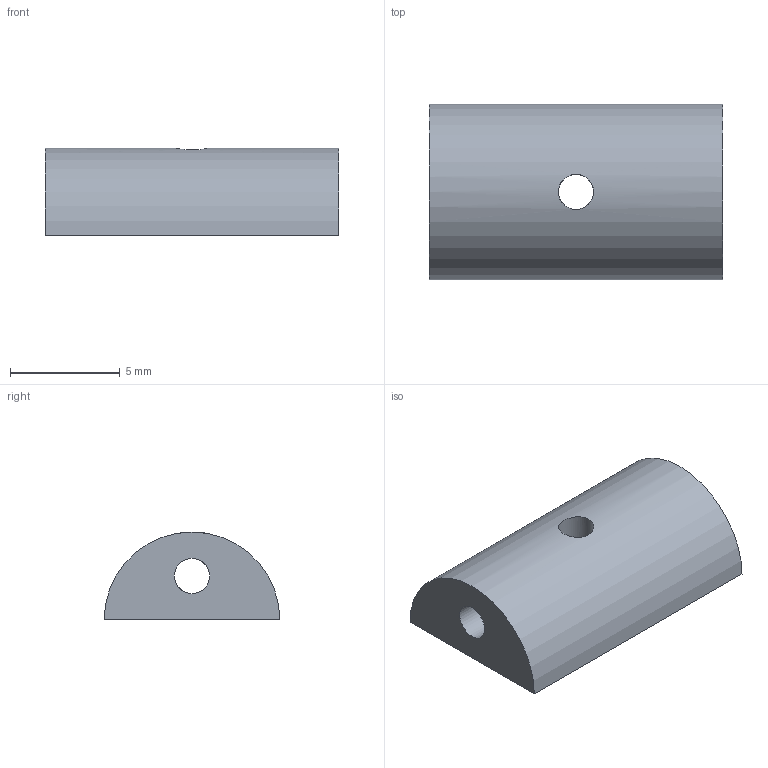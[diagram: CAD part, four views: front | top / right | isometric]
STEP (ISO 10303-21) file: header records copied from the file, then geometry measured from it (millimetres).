
FILE_DESCRIPTION(('FreeCAD Model'),'2;1');
FILE_NAME('Open CASCADE Shape Model','2025-04-03T18:49:43',(''),(''), 'Open CASCADE STEP processor 7.6','FreeCAD','Unknown');
FILE_SCHEMA(('CONFIG_CONTROL_DESIGN','SHAPE_APPEARANCE_LAYER_MIM'));
Length unit declared in the file: millimetre
Products named in the file (1): CylindricalCCDAssemblySpacer
Bounding box: 13.37 x 8 x 4 mm (x, y, z)
Volume: 303.9 mm3; surface area: 394.1 mm2
Topology: 1 solids, 1 shells, 8 faces, 22 edges, 14 vertices
Faces by surface type: cylinder 5, plane 3
Full cylindrical faces by diameter (mm): 1.6 x4
Entity records: 374 total; most frequent: CARTESIAN_POINT 94, DIRECTION 52, ORIENTED_EDGE 44, AXIS2_PLACEMENT_3D 22, EDGE_CURVE 22, VERTEX_POINT 14, FACE_BOUND 12, EDGE_LOOP 12
